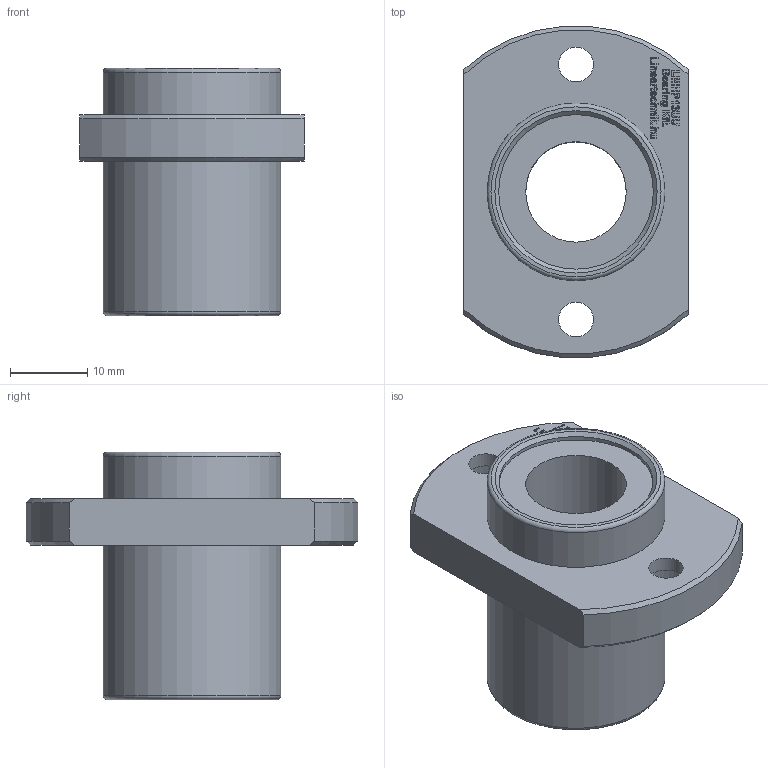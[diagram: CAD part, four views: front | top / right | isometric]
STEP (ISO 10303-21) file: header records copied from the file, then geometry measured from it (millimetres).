
FILE_DESCRIPTION(/* description */ (''),/* implementation_level */ '2;1');
FILE_NAME(/* name */ 'LMHP13UU',/* time_stamp */ '2019-07-09T13:42:56+02:00',/* author */ ('VĂ©gh MĂˇtĂ©'),/* organization */ ('Bearing Kft'),/* preprocessor_version */ 'ST-DEVELOPER v16.7',/* originating_system */ 'DEX',/* authorisation */ $);
FILE_SCHEMA (('AUTOMOTIVE_DESIGN {1 0 10303 214 3 1 1}'));
Length unit declared in the file: millimetre
Products named in the file (1): LMHP13UU
Bounding box: 29 x 42.85 x 32 mm (x, y, z)
Volume: 12596.7 mm3; surface area: 6106.3 mm2
Topology: 1 solids, 1 shells, 343 faces, 862 edges, 574 vertices
Faces by surface type: plane 257, bspline 64, cylinder 14, cone 6, torus 2
Full cylindrical faces by diameter (mm): 4.5 x2, 7.5 x2, 13 x1, 20 x2, 23 x2
Entity records: 12800 total; most frequent: CARTESIAN_POINT 4996, ORIENTED_EDGE 1692, DIRECTION 1306, EDGE_CURVE 846, LINE 674, VECTOR 674, VERTEX_POINT 572, EDGE_LOOP 416
